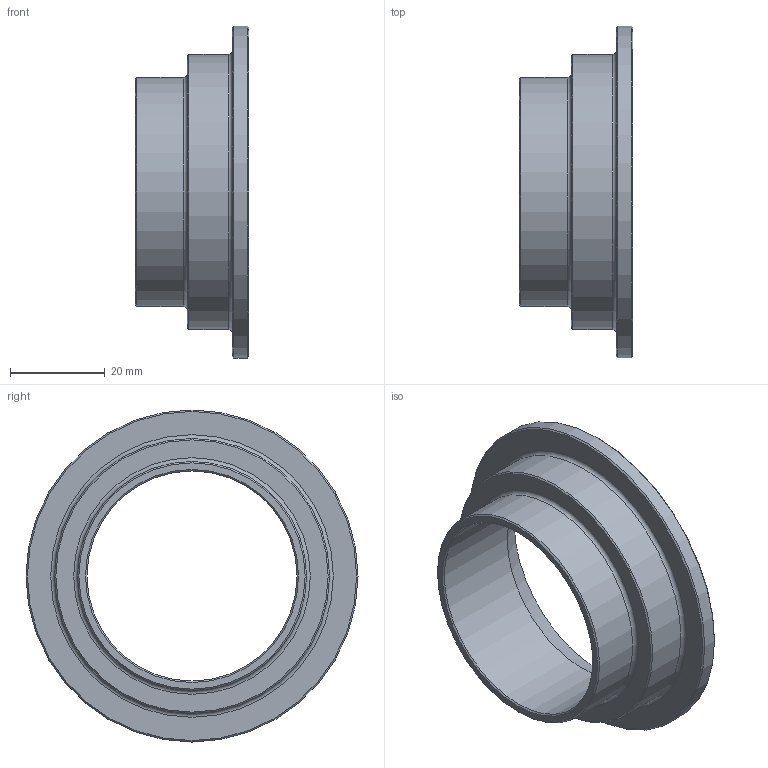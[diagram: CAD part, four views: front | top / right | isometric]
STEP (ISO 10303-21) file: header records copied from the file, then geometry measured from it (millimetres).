
FILE_DESCRIPTION(/* description */ (''),/* implementation_level */ '2;1');
FILE_NAME(/* name */ 'C:\Users\cad\Desktop\Zeichnungen neu von Ralph\3D_Kupplung_R666-SE\3D_R666-SE-48.3-DN65_17113372.stp',/* time_stamp */ '2021-06-18T09:07:30+02:00',/* author */ ('cad'),/* organization */ (''),/* preprocessor_version */ 'ST-DEVELOPER v18.1',/* originating_system */ 'Autodesk Inventor 2022',/* authorisation */ '');
FILE_SCHEMA (('AUTOMOTIVE_DESIGN { 1 0 10303 214 3 1 1 }'));
Length unit declared in the file: millimetre
Products named in the file (1): 3D_R666-SE-48.3-DN65_17113372
Bounding box: 24 x 70 x 70 mm (x, y, z)
Volume: 20716.2 mm3; surface area: 11584.5 mm2
Topology: 1 solids, 1 shells, 16 faces, 35 edges, 23 vertices
Faces by surface type: cone 6, cylinder 4, plane 4, torus 2
Full cylindrical faces by diameter (mm): 44.3 x1, 48.3 x1, 58 x1, 70 x1
Entity records: 501 total; most frequent: DIRECTION 94, CARTESIAN_POINT 75, ORIENTED_EDGE 70, AXIS2_PLACEMENT_3D 42, EDGE_CURVE 35, CIRCLE 25, VERTEX_POINT 23, EDGE_LOOP 20
